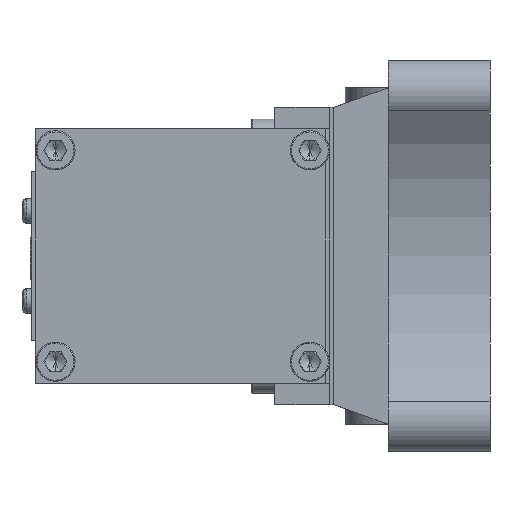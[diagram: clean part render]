
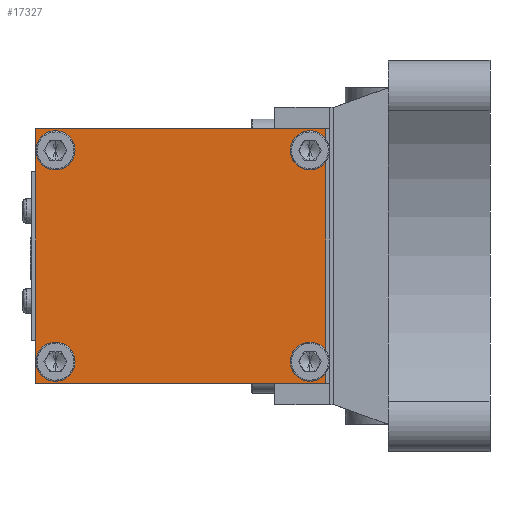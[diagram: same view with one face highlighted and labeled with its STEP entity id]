
A CAD part, left-side view. The second image highlights one B-rep face of the part: STEP entity #17327.
In plain terms, the highlighted planar face has unit normal (-1, 0, 0).
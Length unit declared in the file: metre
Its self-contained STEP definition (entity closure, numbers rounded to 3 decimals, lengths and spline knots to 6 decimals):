
#151 = CARTESIAN_POINT ( 'NONE',  ( 0.065, 0.002, -0.0325 ) ) ;
#435 = VERTEX_POINT ( 'NONE', #23482 ) ;
#574 = CARTESIAN_POINT ( 'NONE',  ( 0.065, 0.071, 0.03 ) ) ;
#685 = DIRECTION ( 'NONE',  ( 0., 0., -1. ) ) ;
#827 = EDGE_CURVE ( 'NONE', #15992, #10814, #29013, .T. ) ;
#1028 = CARTESIAN_POINT ( 'NONE',  ( 0.065, 0.039, -0.0325 ) ) ;
#1213 = EDGE_CURVE ( 'NONE', #4771, #28065, #21828, .T. ) ;
#1231 = LINE ( 'NONE', #27506, #18581 ) ;
#1242 = DIRECTION ( 'NONE',  ( 0., 1., 0. ) ) ;
#1586 = ORIENTED_EDGE ( 'NONE', *, *, #17673, .F. ) ;
#1801 = CARTESIAN_POINT ( 'NONE',  ( 0.065, 0.006, 0.027 ) ) ;
#2178 = EDGE_CURVE ( 'NONE', #10814, #2290, #5750, .T. ) ;
#2290 = VERTEX_POINT ( 'NONE', #2505 ) ;
#2505 = CARTESIAN_POINT ( 'NONE',  ( 0.065, 0.076, -0.0325 ) ) ;
#2550 = EDGE_CURVE ( 'NONE', #21095, #24881, #15849, .T. ) ;
#2568 = AXIS2_PLACEMENT_3D ( 'NONE', #21971, #8680, #24305 ) ;
#2630 = CARTESIAN_POINT ( 'NONE',  ( 0.065, 0.002, 0.0325 ) ) ;
#3043 = FACE_BOUND ( 'NONE', #23330, .T. ) ;
#3263 = EDGE_CURVE ( 'NONE', #12404, #435, #13101, .T. ) ;
#3779 = FACE_BOUND ( 'NONE', #18770, .T. ) ;
#4192 = DIRECTION ( 'NONE',  ( 0., 0., -1. ) ) ;
#4329 = VECTOR ( 'NONE', #29133, 1. ) ;
#4771 = VERTEX_POINT ( 'NONE', #8811 ) ;
#5750 = LINE ( 'NONE', #1028, #28961 ) ;
#5754 = LINE ( 'NONE', #12870, #16932 ) ;
#6251 = EDGE_CURVE ( 'NONE', #24881, #21095, #17133, .T. ) ;
#6859 = CARTESIAN_POINT ( 'NONE',  ( 0.065, 0.071, -0.027 ) ) ;
#6881 = DIRECTION ( 'NONE',  ( -1., 0., 0. ) ) ;
#6913 = DIRECTION ( 'NONE',  ( 0., 0., -1. ) ) ;
#7752 = ORIENTED_EDGE ( 'NONE', *, *, #12630, .F. ) ;
#7936 = ORIENTED_EDGE ( 'NONE', *, *, #28897, .F. ) ;
#8349 = VERTEX_POINT ( 'NONE', #23557 ) ;
#8680 = DIRECTION ( 'NONE',  ( -1., 0., 0. ) ) ;
#8811 = CARTESIAN_POINT ( 'NONE',  ( 0.065, 0.071, 0.024 ) ) ;
#9163 = FACE_BOUND ( 'NONE', #10828, .T. ) ;
#9526 = CIRCLE ( 'NONE', #18653, 0.003 ) ;
#10064 = AXIS2_PLACEMENT_3D ( 'NONE', #1801, #17618, #4192 ) ;
#10464 = DIRECTION ( 'NONE',  ( -1., 0., 0. ) ) ;
#10814 = VERTEX_POINT ( 'NONE', #151 ) ;
#10828 = EDGE_LOOP ( 'NONE', ( #24409, #18386 ) ) ;
#11299 = CIRCLE ( 'NONE', #13414, 0.003 ) ;
#12404 = VERTEX_POINT ( 'NONE', #28133 ) ;
#12630 = EDGE_CURVE ( 'NONE', #8349, #15992, #5754, .T. ) ;
#12870 = CARTESIAN_POINT ( 'NONE',  ( 0.065, 0.039, 0.0325 ) ) ;
#12973 = DIRECTION ( 'NONE',  ( 0., -1., 0. ) ) ;
#13101 = CIRCLE ( 'NONE', #24169, 0.003 ) ;
#13414 = AXIS2_PLACEMENT_3D ( 'NONE', #23757, #10464, #26041 ) ;
#13464 = CARTESIAN_POINT ( 'NONE',  ( 0.065, 0.006, -0.027 ) ) ;
#13496 = DIRECTION ( 'NONE',  ( -1., 0., 0. ) ) ;
#13518 = DIRECTION ( 'NONE',  ( 0., 0., -1. ) ) ;
#13809 = CIRCLE ( 'NONE', #10064, 0.003 ) ;
#13990 = CARTESIAN_POINT ( 'NONE',  ( 0.065, 0.071, -0.03 ) ) ;
#14994 = CARTESIAN_POINT ( 'NONE',  ( 0.065, 0.071, -0.027 ) ) ;
#15154 = DIRECTION ( 'NONE',  ( -1., 0., 0. ) ) ;
#15849 = CIRCLE ( 'NONE', #25702, 0.003 ) ;
#15911 = PLANE ( 'NONE',  #17030 ) ;
#15992 = VERTEX_POINT ( 'NONE', #2630 ) ;
#16185 = VERTEX_POINT ( 'NONE', #21716 ) ;
#16218 = CARTESIAN_POINT ( 'NONE',  ( 0.065, 0.002, 0.0325 ) ) ;
#16436 = EDGE_CURVE ( 'NONE', #2290, #8349, #1231, .T. ) ;
#16454 = CARTESIAN_POINT ( 'NONE',  ( 0.065, 0.006, 0.03 ) ) ;
#16834 = DIRECTION ( 'NONE',  ( 1., 0., 0. ) ) ;
#16894 = DIRECTION ( 'NONE',  ( 0., 0., -1. ) ) ;
#16932 = VECTOR ( 'NONE', #12973, 1. ) ;
#17010 = ORIENTED_EDGE ( 'NONE', *, *, #1213, .F. ) ;
#17030 = AXIS2_PLACEMENT_3D ( 'NONE', #16218, #16834, #16894 ) ;
#17133 = CIRCLE ( 'NONE', #17518, 0.003 ) ;
#17327 = ADVANCED_FACE ( 'NONE', ( #26989, #9163, #3779, #3043, #26296 ), #15911, .F. ) ;
#17386 = ORIENTED_EDGE ( 'NONE', *, *, #3263, .F. ) ;
#17518 = AXIS2_PLACEMENT_3D ( 'NONE', #14994, #15154, #685 ) ;
#17618 = DIRECTION ( 'NONE',  ( -1., 0., 0. ) ) ;
#17673 = EDGE_CURVE ( 'NONE', #23842, #16185, #9526, .T. ) ;
#18386 = ORIENTED_EDGE ( 'NONE', *, *, #2550, .F. ) ;
#18581 = VECTOR ( 'NONE', #27580, 1. ) ;
#18653 = AXIS2_PLACEMENT_3D ( 'NONE', #25212, #25279, #25314 ) ;
#18770 = EDGE_LOOP ( 'NONE', ( #7936, #1586 ) ) ;
#19126 = EDGE_LOOP ( 'NONE', ( #17010, #27305 ) ) ;
#20027 = ORIENTED_EDGE ( 'NONE', *, *, #2178, .F. ) ;
#20987 = ORIENTED_EDGE ( 'NONE', *, *, #827, .F. ) ;
#21066 = EDGE_CURVE ( 'NONE', #435, #12404, #11299, .T. ) ;
#21095 = VERTEX_POINT ( 'NONE', #25957 ) ;
#21716 = CARTESIAN_POINT ( 'NONE',  ( 0.065, 0.006, 0.024 ) ) ;
#21828 = CIRCLE ( 'NONE', #28507, 0.003 ) ;
#21971 = CARTESIAN_POINT ( 'NONE',  ( 0.065, 0.071, 0.027 ) ) ;
#23330 = EDGE_LOOP ( 'NONE', ( #27487, #17386 ) ) ;
#23482 = CARTESIAN_POINT ( 'NONE',  ( 0.065, 0.006, -0.03 ) ) ;
#23557 = CARTESIAN_POINT ( 'NONE',  ( 0.065, 0.076, 0.0325 ) ) ;
#23648 = EDGE_CURVE ( 'NONE', #28065, #4771, #27252, .T. ) ;
#23757 = CARTESIAN_POINT ( 'NONE',  ( 0.065, 0.006, -0.027 ) ) ;
#23842 = VERTEX_POINT ( 'NONE', #16454 ) ;
#24169 = AXIS2_PLACEMENT_3D ( 'NONE', #13464, #13496, #13518 ) ;
#24305 = DIRECTION ( 'NONE',  ( 0., 0., -1. ) ) ;
#24409 = ORIENTED_EDGE ( 'NONE', *, *, #6251, .F. ) ;
#24881 = VERTEX_POINT ( 'NONE', #13990 ) ;
#25212 = CARTESIAN_POINT ( 'NONE',  ( 0.065, 0.006, 0.027 ) ) ;
#25279 = DIRECTION ( 'NONE',  ( -1., 0., 0. ) ) ;
#25314 = DIRECTION ( 'NONE',  ( 0., 0., -1. ) ) ;
#25677 = DIRECTION ( 'NONE',  ( -1., 0., 0. ) ) ;
#25702 = AXIS2_PLACEMENT_3D ( 'NONE', #6859, #6881, #6913 ) ;
#25710 = CARTESIAN_POINT ( 'NONE',  ( 0.065, 0.071, 0.027 ) ) ;
#25957 = CARTESIAN_POINT ( 'NONE',  ( 0.065, 0.071, -0.024 ) ) ;
#26017 = DIRECTION ( 'NONE',  ( 0., 0., -1. ) ) ;
#26041 = DIRECTION ( 'NONE',  ( 0., 0., -1. ) ) ;
#26296 = FACE_OUTER_BOUND ( 'NONE', #26509, .T. ) ;
#26509 = EDGE_LOOP ( 'NONE', ( #20987, #7752, #28256, #20027 ) ) ;
#26989 = FACE_BOUND ( 'NONE', #19126, .T. ) ;
#27252 = CIRCLE ( 'NONE', #2568, 0.003 ) ;
#27305 = ORIENTED_EDGE ( 'NONE', *, *, #23648, .F. ) ;
#27487 = ORIENTED_EDGE ( 'NONE', *, *, #21066, .F. ) ;
#27506 = CARTESIAN_POINT ( 'NONE',  ( 0.065, 0.076, 0. ) ) ;
#27580 = DIRECTION ( 'NONE',  ( 0., 0., 1. ) ) ;
#28065 = VERTEX_POINT ( 'NONE', #574 ) ;
#28133 = CARTESIAN_POINT ( 'NONE',  ( 0.065, 0.006, -0.024 ) ) ;
#28256 = ORIENTED_EDGE ( 'NONE', *, *, #16436, .F. ) ;
#28507 = AXIS2_PLACEMENT_3D ( 'NONE', #25710, #25677, #26017 ) ;
#28897 = EDGE_CURVE ( 'NONE', #16185, #23842, #13809, .T. ) ;
#28961 = VECTOR ( 'NONE', #1242, 1. ) ;
#29013 = LINE ( 'NONE', #29102, #4329 ) ;
#29102 = CARTESIAN_POINT ( 'NONE',  ( 0.065, 0.002, 0. ) ) ;
#29133 = DIRECTION ( 'NONE',  ( 0., 0., -1. ) ) ;
